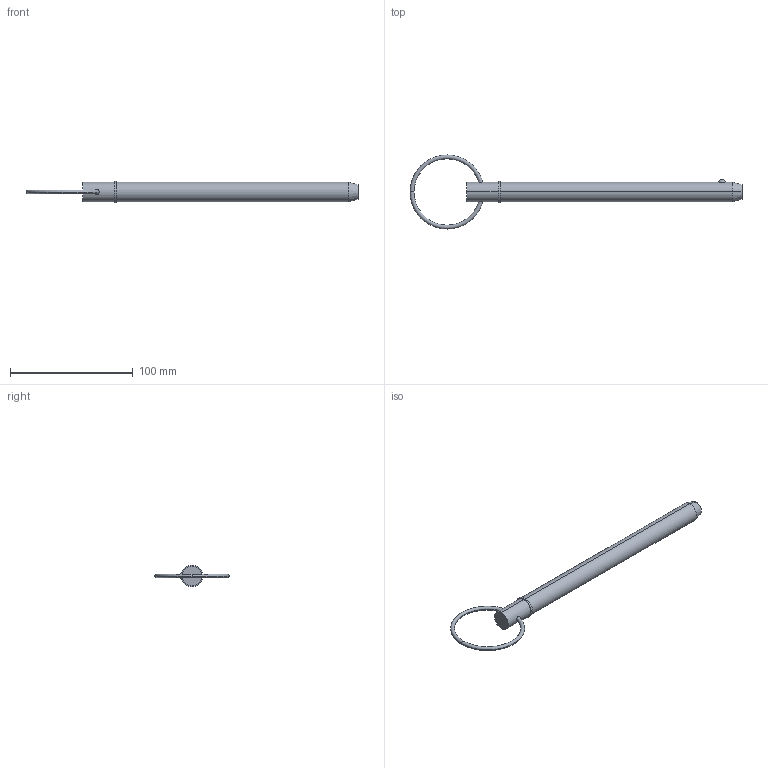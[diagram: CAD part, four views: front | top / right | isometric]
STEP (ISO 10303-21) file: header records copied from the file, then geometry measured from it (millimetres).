
FILE_DESCRIPTION (( 'STEP AP203' ), '1' );
FILE_NAME ('33016.W6270.step', '2024-11-07T11:13:43', ( '' ), ( '' ), 'SwSTEP 2.0', 'SolidWorks 2019', '' );
FILE_SCHEMA (( 'CONFIG_CONTROL_DESIGN' ));
Length unit declared in the file: millimetre
Products named in the file (3): Part2_33016.W6270; 33016.W6270; Part1_33016.W6270
Assembly tree (2 placements, depth 2):
  33016.W6270
    Part1_33016.W6270
    Part2_33016.W6270
Bounding box: 270.18 x 60.33 x 17.47 mm (x, y, z)
Volume: 45387 mm3; surface area: 13529.8 mm2
Topology: 2 solids, 2 shells, 22 faces, 43 edges, 26 vertices
Faces by surface type: torus 8, cylinder 6, plane 4, sphere 2, cone 2
Entity records: 1047 total; most frequent: CARTESIAN_POINT 270, DIRECTION 120, ORIENTED_EDGE 86, AXIS2_PLACEMENT_3D 56, EDGE_CURVE 43, CIRCLE 29, EDGE_LOOP 27, VERTEX_POINT 26
